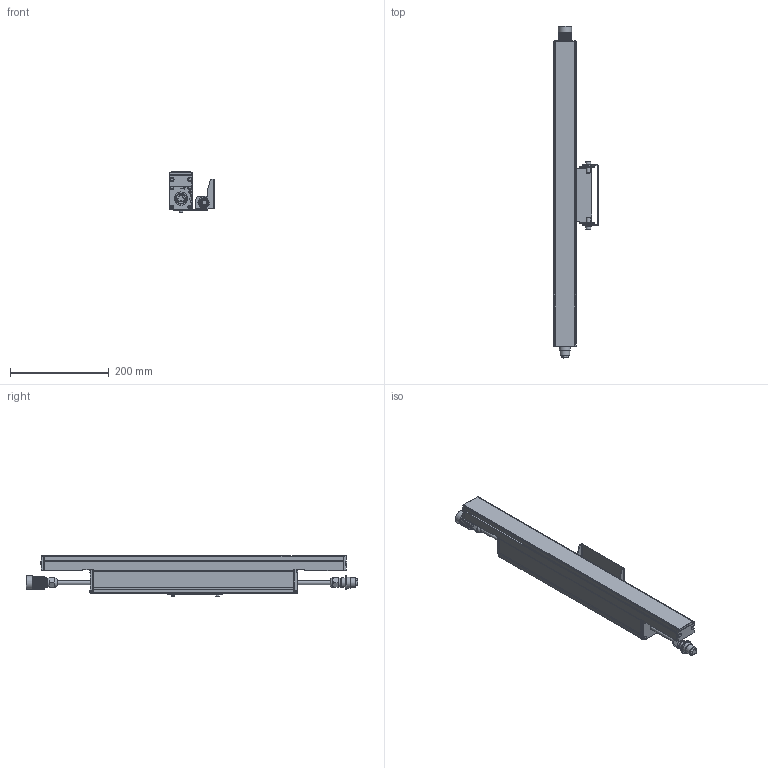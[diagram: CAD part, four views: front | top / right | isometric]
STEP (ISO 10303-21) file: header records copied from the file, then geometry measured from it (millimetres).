
FILE_DESCRIPTION(/* description */ ('Unknown'),/* implementation_level */ '2;1');
FILE_NAME(/* name */ 'ARCHILINE W 24.4',/* time_stamp */ '2023-01-24T03:56:39-05:00',/* author */ ('Unknown'),/* organization */ ('Unknown'),/* preprocessor_version */ 'ST-DEVELOPER v18.1',/* originating_system */ 'Solid Edge',/* authorisation */ 'Unknown');
FILE_SCHEMA (('AUTOMOTIVE_DESIGN {1 0 10303 214 3 1 1}'));
Products named in the file (1): ARCHILINE W 24.4
Bounding box: 90.95 x 673 x 81.8 mm (x, y, z)
Volume: 1685954.2 mm3; surface area: 234055.7 mm2
Topology: 1 solids, 1 shells, 2621 faces, 6840 edges, 4015 vertices
Faces by surface type: cylinder 1093, plane 804, bspline 316, sphere 220, torus 162, cone 26
Full cylindrical faces by diameter (mm): 2.9 x4, 4 x1, 6 x2, 6.5 x12, 7 x2, 8.13 x2, 8.6 x2, 10 x2, 12 x2, 16.5 x2, 18 x2, 19 x3, 22 x1, 27 x2, 27.2 x1
Entity records: 263524 total; most frequent: CARTESIAN_POINT 184039, ORIENTED_EDGE 13034, DIRECTION 12817, EDGE_CURVE 6517, AXIS2_PLACEMENT_3D 4870, VERTEX_POINT 3920, LINE 3077, VECTOR 3077
